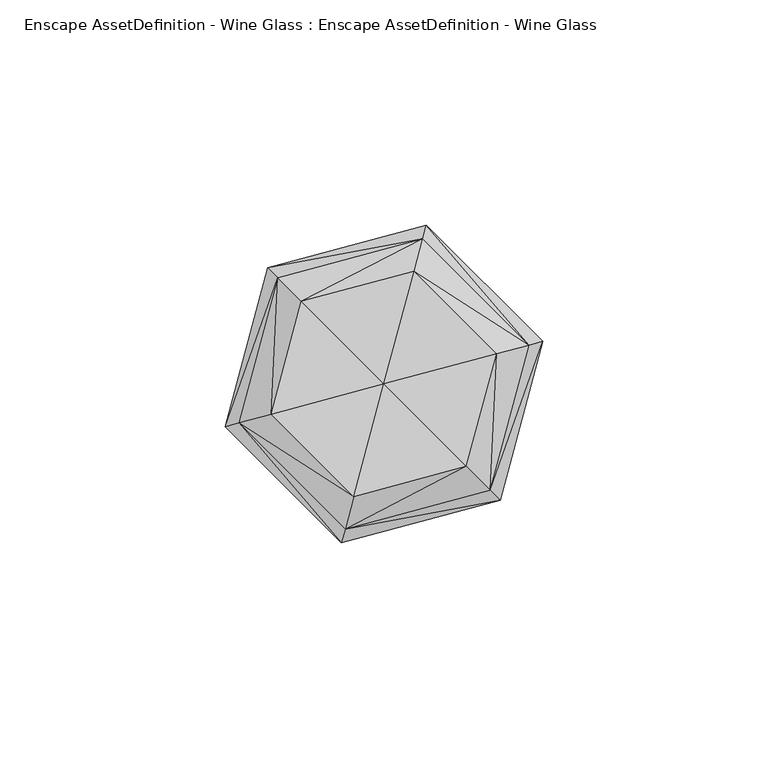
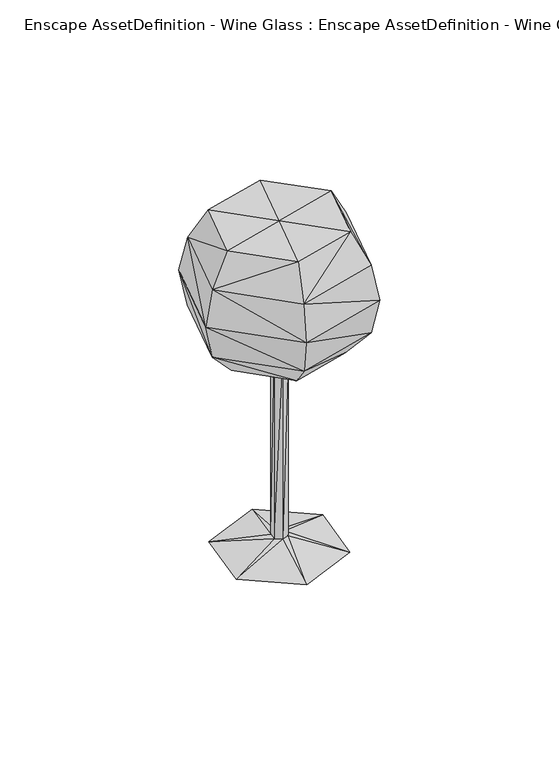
"""IFC4 building model written with IfcOpenShell, lengths in millimetres: geographic element geometry, Enscape AssetDefinition - Wine Glass : Enscape AssetDefinition - Wine Glass."""

from ifc_helpers import new_model, si_unit, origin, place, context, project, spatial, faceted_brep, source, transform, mapped, element, save


def enscape_assetdefinition_wine_glass_enscape_assetdefinition_9b546fad(model_context):
    return source(origin(), model_context, "Body", "Brep", [
        faceted_brep([(0.4024334, 3.0541108, 5.2635097), (23.0970867, 9.5667578, 0.0), (3.2632966, 24.7865096, 0.0), (2.8459211, 1.1794087, 5.2635097), (19.8337901, -15.2187562, 0.0), (-2.4444838, 1.8756981, 5.2635097), (-19.8337901, 15.2187562, 0.0), (-23.0970867, -9.5667578, 0.0), (0.4024334, 3.0541108, 81.6421807), (-2.4444838, 1.8756981, 81.6421807), (-2.8459211, -1.1794087, 5.2635097), (-2.8459211, -1.1794087, 81.6421807), (-0.4024334, -3.0541108, 5.2635097), (-3.2632966, -24.7865096, 0.0), (-0.4024334, -3.0541108, 81.6421807), (-23.0691954, -6.1908998, 87.6358449), (-6.1739655, -23.0741762, 87.6358449), (-16.8962255, 16.8832764, 87.6358449), (-23.6588977, 23.6409698, 98.0443284), (-32.3032476, -8.6682551, 98.0443284), (16.8962255, -16.8832764, 87.6358449), (-8.6443489, -32.309223, 98.0443284), (2.4444838, -1.8756981, 81.6421807), (23.0691954, 6.1908998, 87.6358449), (23.6588977, -23.6409698, 98.0443284), (-35.2896228, -9.470134, 112.5020385), (-9.4442349, -35.2965966, 112.5020385), (-25.8463826, 25.8274581, 112.5020385), (-23.6160662, 23.5981345, 126.899004), (-32.2444774, -8.6523173, 126.899004), (-8.6294068, -32.2514474, 126.899004), (25.8463826, -25.8274581, 112.5020385), (32.3032476, 8.6682551, 98.0443284), (23.6160662, -23.5981345, 126.899004), (35.2896228, 9.470134, 112.5020385), (-6.6979257, -25.0335485, 140.0000006), (18.3306411, -18.317692, 140.0000006), (32.2444774, 8.6523173, 126.899004), (25.0285659, 6.715856, 140.0000006), (9.4442349, 35.2965966, 112.5020385), (8.6443489, 32.309223, 98.0443284), (8.6294068, 32.2514474, 126.899004), (6.6979257, 25.0335485, 140.0000006), (0.0, 0.0, 140.0000006), (-18.3306411, 18.317692, 140.0000006), (-25.0285659, -6.715856, 140.0000006), (6.1739655, 23.0741762, 87.6358449), (2.8459211, 1.1794087, 81.6421807), (2.4444838, -1.8756981, 5.2635097)], [[[0, 1, 2]], [[1, 0, 3]], [[3, 4, 1]], [[4, 2, 1]], [[5, 2, 6]], [[2, 5, 0]], [[2, 7, 6]], [[4, 7, 2]], [[8, 3, 0]], [[9, 0, 5]], [[0, 9, 8]], [[6, 10, 5]], [[11, 5, 10]], [[5, 11, 9]], [[10, 6, 7]], [[12, 7, 13]], [[7, 12, 10]], [[4, 13, 7]], [[14, 10, 12]], [[10, 14, 11]], [[15, 9, 11]], [[11, 16, 15]], [[16, 11, 14]], [[17, 8, 9]], [[9, 15, 17]], [[15, 18, 17]], [[18, 15, 19]], [[16, 19, 15]], [[14, 20, 16]], [[19, 16, 21]], [[20, 21, 16]], [[12, 22, 14]], [[20, 14, 22]], [[22, 23, 20]], [[21, 20, 24]], [[23, 24, 20]], [[25, 21, 26]], [[21, 25, 19]], [[24, 26, 21]], [[27, 19, 25]], [[19, 27, 18]], [[28, 25, 29]], [[25, 28, 27]], [[26, 29, 25]], [[29, 26, 30]], [[31, 30, 26]], [[26, 24, 31]], [[32, 31, 24]], [[24, 23, 32]], [[30, 31, 33]], [[34, 33, 31]], [[31, 32, 34]], [[35, 29, 30]], [[36, 30, 33]], [[30, 36, 35]], [[33, 34, 37]], [[38, 33, 37]], [[33, 38, 36]], [[39, 37, 34]], [[34, 40, 39]], [[40, 34, 32]], [[37, 39, 41]], [[42, 37, 41]], [[37, 42, 38]], [[43, 36, 38]], [[43, 38, 42]], [[43, 35, 36]], [[43, 42, 44]], [[43, 44, 45]], [[43, 45, 35]], [[41, 44, 42]], [[41, 27, 28]], [[27, 41, 39]], [[44, 41, 28]], [[28, 45, 44]], [[45, 28, 29]], [[29, 35, 45]], [[39, 18, 27]], [[18, 39, 40]], [[40, 17, 18]], [[8, 17, 46]], [[17, 40, 46]], [[47, 46, 23]], [[46, 47, 8]], [[46, 32, 23]], [[32, 46, 40]], [[3, 8, 47]], [[47, 48, 3]], [[48, 47, 22]], [[23, 22, 47]], [[4, 3, 48]], [[48, 13, 4]], [[13, 48, 12]], [[22, 12, 48]]]),
    ])


if __name__ == "__main__":
    model = new_model("IFC4")
    model_context = context("Model", 3, world=origin())
    ifc_project = project(units=[si_unit("LENGTHUNIT", "METRE", prefix="MILLI")], contexts=[model_context])
    site = spatial("IfcSite", under=ifc_project)
    building = spatial("IfcBuilding", under=site)
    placement = place(None, origin())
    enscape_assetdefinition_wine_glass_enscape_assetdefinition_shape = enscape_assetdefinition_wine_glass_enscape_assetdefinition_9b546fad(model_context)
    element("IfcGeographicElement", 1, ObjectType="Enscape AssetDefinition - Wine Glass : Enscape AssetDefinition - Wine Glass", at=placement, inside=building, context=model_context, shape_type="MappedRepresentation", body=[
        mapped(enscape_assetdefinition_wine_glass_enscape_assetdefinition_shape, transform((0.0, 0.0, 0.0), x_axis=(1.0, 0.0, 0.0), y_axis=(0.0, 1.0, 0.0), z_axis=(0.0, 0.0, 1.0))),
    ])
    save(model, "model.ifc")
